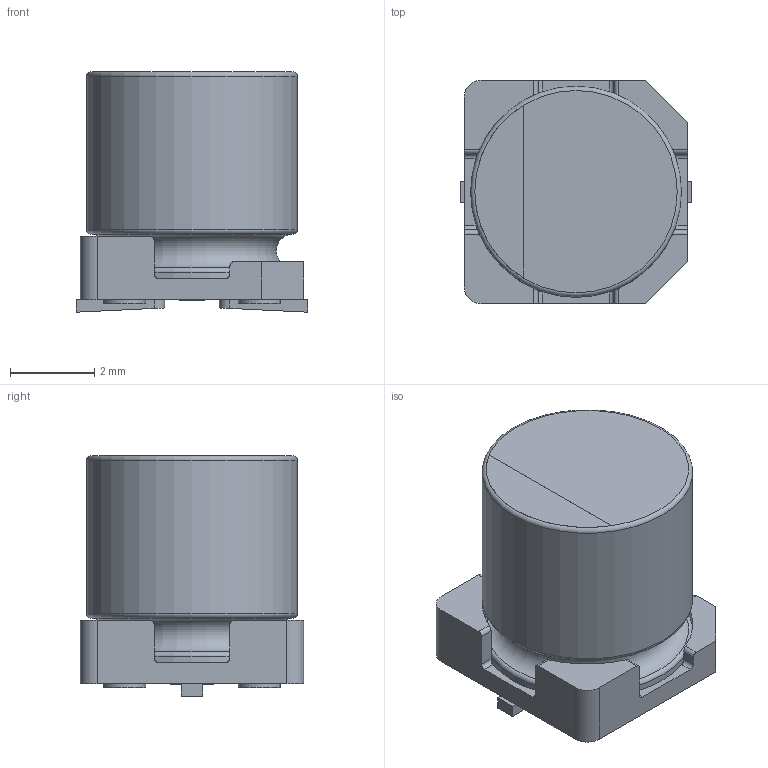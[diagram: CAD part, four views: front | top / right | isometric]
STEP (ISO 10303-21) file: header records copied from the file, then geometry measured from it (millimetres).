
FILE_DESCRIPTION(/* description */ (''),/* implementation_level */ '2;1');
FILE_NAME(/* name */ '5x5.7_Chip.stp',/* time_stamp */ '2017-09-04T16:27:31+09:00',/* author */ (''),/* organization */ (''),/* preprocessor_version */ 'ST-DEVELOPER v16',/* originating_system */ 'SIEMENS PLM Software NX 11.0',/* authorisation */ '');
FILE_SCHEMA (('AUTOMOTIVE_DESIGN { 1 0 10303 214 3 1 1 1 }'));
Length unit declared in the file: millimetre
Products named in the file (1): 5x5.7_Chip_0
Bounding box: 5.5 x 5.3 x 5.7 mm (x, y, z)
Volume: 110.1 mm3; surface area: 216.6 mm2
Topology: 5 solids, 5 shells, 81 faces, 194 edges, 128 vertices
Faces by surface type: plane 44, cylinder 33, torus 4
Full cylindrical faces by diameter (mm): 1 x4, 5 x2
Entity records: 2546 total; most frequent: CARTESIAN_POINT 536, DIRECTION 384, ORIENTED_EDGE 366, EDGE_CURVE 183, AXIS2_PLACEMENT_3D 135, VERTEX_POINT 127, LINE 114, VECTOR 114
